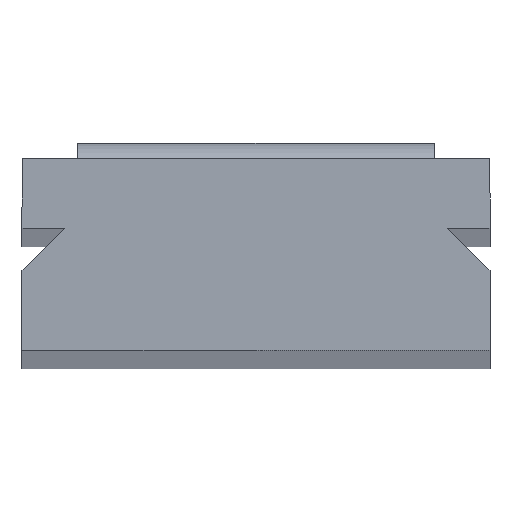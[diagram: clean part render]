
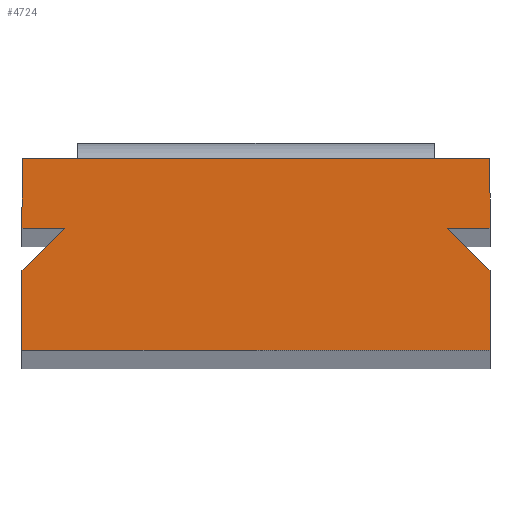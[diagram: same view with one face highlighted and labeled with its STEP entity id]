
A CAD part, top view. The second image highlights one B-rep face of the part: STEP entity #4724.
In plain terms, the highlighted planar face has unit normal (0, 0, 1).
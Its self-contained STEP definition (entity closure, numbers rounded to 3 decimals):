
#55 = CARTESIAN_POINT ( 'NONE',  ( -44., 15., 20. ) ) ;
#210 = ORIENTED_EDGE ( 'NONE', *, *, #6911, .T. ) ;
#216 = CARTESIAN_POINT ( 'NONE',  ( -44., 23., 20. ) ) ;
#240 = VECTOR ( 'NONE', #7711, 1000. ) ;
#436 = VECTOR ( 'NONE', #678, 1000. ) ;
#582 = CARTESIAN_POINT ( 'NONE',  ( 44., 0., 20. ) ) ;
#678 = DIRECTION ( 'NONE',  ( 1., 0., 0. ) ) ;
#776 = VECTOR ( 'NONE', #5682, 1000. ) ;
#895 = DIRECTION ( 'NONE',  ( 0., 0., -1. ) ) ;
#951 = EDGE_CURVE ( 'NONE', #3850, #1064, #1703, .T. ) ;
#981 = VECTOR ( 'NONE', #5202, 1000. ) ;
#1064 = VERTEX_POINT ( 'NONE', #6309 ) ;
#1160 = DIRECTION ( 'NONE',  ( 0., -1., 0. ) ) ;
#1203 = CARTESIAN_POINT ( 'NONE',  ( 44., 15., 20. ) ) ;
#1257 = ORIENTED_EDGE ( 'NONE', *, *, #951, .T. ) ;
#1529 = EDGE_CURVE ( 'NONE', #7579, #6605, #2419, .T. ) ;
#1612 = VERTEX_POINT ( 'NONE', #2467 ) ;
#1656 = EDGE_CURVE ( 'NONE', #1064, #7182, #6440, .T. ) ;
#1663 = ORIENTED_EDGE ( 'NONE', *, *, #6062, .T. ) ;
#1703 = LINE ( 'NONE', #6835, #7871 ) ;
#1741 = VERTEX_POINT ( 'NONE', #4622 ) ;
#1953 = DIRECTION ( 'NONE',  ( 1., 0., 0. ) ) ;
#2045 = CARTESIAN_POINT ( 'NONE',  ( 0., 0., 20. ) ) ;
#2133 = VERTEX_POINT ( 'NONE', #5856 ) ;
#2419 = LINE ( 'NONE', #4949, #436 ) ;
#2467 = CARTESIAN_POINT ( 'NONE',  ( -44., 0., 20. ) ) ;
#2846 = LINE ( 'NONE', #4324, #6445 ) ;
#2888 = ORIENTED_EDGE ( 'NONE', *, *, #3207, .T. ) ;
#3145 = VERTEX_POINT ( 'NONE', #3618 ) ;
#3207 = EDGE_CURVE ( 'NONE', #1612, #2133, #5113, .T. ) ;
#3352 = ORIENTED_EDGE ( 'NONE', *, *, #7372, .T. ) ;
#3418 = DIRECTION ( 'NONE',  ( -1., 0., 0. ) ) ;
#3618 = CARTESIAN_POINT ( 'NONE',  ( -44., 15., 20. ) ) ;
#3668 = ORIENTED_EDGE ( 'NONE', *, *, #6253, .T. ) ;
#3734 = LINE ( 'NONE', #7657, #6990 ) ;
#3850 = VERTEX_POINT ( 'NONE', #3953 ) ;
#3862 = CARTESIAN_POINT ( 'NONE',  ( -36., 23., 20. ) ) ;
#3953 = CARTESIAN_POINT ( 'NONE',  ( 36., 23., 20. ) ) ;
#4045 = FACE_OUTER_BOUND ( 'NONE', #5353, .T. ) ;
#4217 = VECTOR ( 'NONE', #6830, 1000. ) ;
#4259 = DIRECTION ( 'NONE',  ( 0., -1., 0. ) ) ;
#4324 = CARTESIAN_POINT ( 'NONE',  ( 44., 36., 20. ) ) ;
#4622 = CARTESIAN_POINT ( 'NONE',  ( 44., 15., 20. ) ) ;
#4724 = ADVANCED_FACE ( 'NONE', ( #4045 ), #6570, .F. ) ;
#4949 = CARTESIAN_POINT ( 'NONE',  ( -44., 23., 20. ) ) ;
#5113 = LINE ( 'NONE', #5774, #6663 ) ;
#5144 = LINE ( 'NONE', #582, #4217 ) ;
#5202 = DIRECTION ( 'NONE',  ( 0., 1., 0. ) ) ;
#5277 = VECTOR ( 'NONE', #4259, 1000. ) ;
#5353 = EDGE_LOOP ( 'NONE', ( #210, #2888, #5930, #7774, #1257, #5756, #1663, #3352, #7786, #3668 ) ) ;
#5358 = CARTESIAN_POINT ( 'NONE',  ( 44., 36., 20. ) ) ;
#5682 = DIRECTION ( 'NONE',  ( -0.707, 0.707, 0. ) ) ;
#5731 = LINE ( 'NONE', #55, #240 ) ;
#5756 = ORIENTED_EDGE ( 'NONE', *, *, #1656, .T. ) ;
#5774 = CARTESIAN_POINT ( 'NONE',  ( -44., 0., 20. ) ) ;
#5856 = CARTESIAN_POINT ( 'NONE',  ( 44., 0., 20. ) ) ;
#5930 = ORIENTED_EDGE ( 'NONE', *, *, #7417, .T. ) ;
#6062 = EDGE_CURVE ( 'NONE', #7182, #6948, #2846, .T. ) ;
#6087 = CARTESIAN_POINT ( 'NONE',  ( -44., 0., 20. ) ) ;
#6253 = EDGE_CURVE ( 'NONE', #6605, #3145, #5731, .T. ) ;
#6261 = LINE ( 'NONE', #1203, #776 ) ;
#6309 = CARTESIAN_POINT ( 'NONE',  ( 44., 23., 20. ) ) ;
#6440 = LINE ( 'NONE', #7764, #981 ) ;
#6445 = VECTOR ( 'NONE', #8048, 1000. ) ;
#6570 = PLANE ( 'NONE',  #7351 ) ;
#6605 = VERTEX_POINT ( 'NONE', #3862 ) ;
#6663 = VECTOR ( 'NONE', #1953, 1000. ) ;
#6702 = LINE ( 'NONE', #6087, #5277 ) ;
#6830 = DIRECTION ( 'NONE',  ( 0., 1., 0. ) ) ;
#6835 = CARTESIAN_POINT ( 'NONE',  ( 44., 23., 20. ) ) ;
#6911 = EDGE_CURVE ( 'NONE', #3145, #1612, #6702, .T. ) ;
#6948 = VERTEX_POINT ( 'NONE', #7565 ) ;
#6990 = VECTOR ( 'NONE', #1160, 1000. ) ;
#7182 = VERTEX_POINT ( 'NONE', #5358 ) ;
#7351 = AXIS2_PLACEMENT_3D ( 'NONE', #2045, #895, #3418 ) ;
#7372 = EDGE_CURVE ( 'NONE', #6948, #7579, #3734, .T. ) ;
#7408 = EDGE_CURVE ( 'NONE', #1741, #3850, #6261, .T. ) ;
#7417 = EDGE_CURVE ( 'NONE', #2133, #1741, #5144, .T. ) ;
#7565 = CARTESIAN_POINT ( 'NONE',  ( -44., 36., 20. ) ) ;
#7579 = VERTEX_POINT ( 'NONE', #216 ) ;
#7657 = CARTESIAN_POINT ( 'NONE',  ( -44., 36., 20. ) ) ;
#7711 = DIRECTION ( 'NONE',  ( -0.707, -0.707, 0. ) ) ;
#7764 = CARTESIAN_POINT ( 'NONE',  ( 44., 36., 20. ) ) ;
#7774 = ORIENTED_EDGE ( 'NONE', *, *, #7408, .T. ) ;
#7786 = ORIENTED_EDGE ( 'NONE', *, *, #1529, .T. ) ;
#7871 = VECTOR ( 'NONE', #8123, 1000. ) ;
#8048 = DIRECTION ( 'NONE',  ( -1., 0., 0. ) ) ;
#8123 = DIRECTION ( 'NONE',  ( 1., 0., 0. ) ) ;
